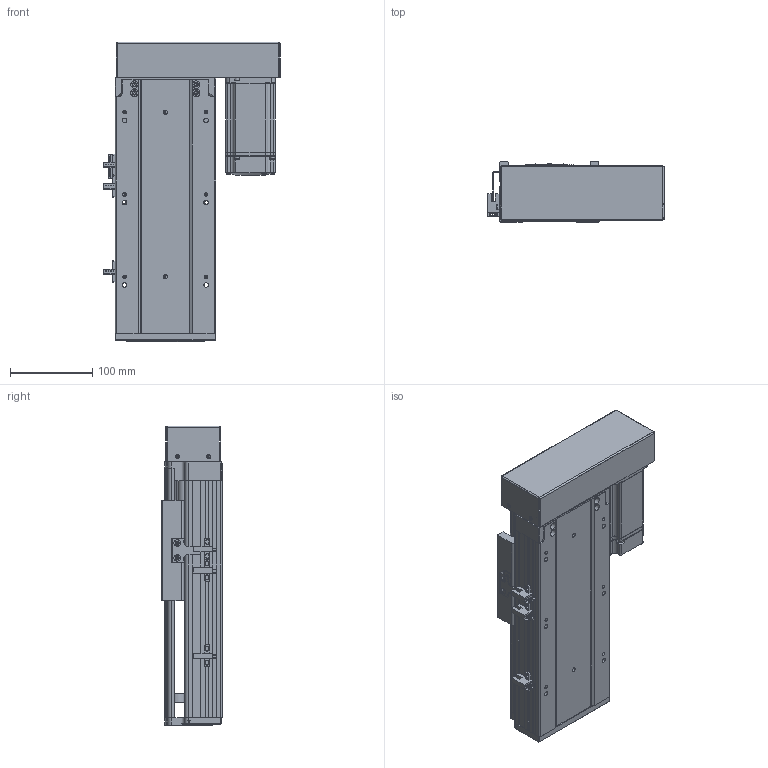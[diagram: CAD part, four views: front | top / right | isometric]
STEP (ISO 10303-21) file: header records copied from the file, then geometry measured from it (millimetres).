
FILE_DESCRIPTION (( 'STEP AP203' ), '1' );
FILE_NAME ('RY120-L2020-300-RK.SLDASM_100.step', '2021-03-12T07:13:42', ( '盈信电脑' ), ( '东莞市道滘镇水果街19号' ), 'SwSTEP 2.0', 'SolidWorks 2012', '' );
FILE_SCHEMA (( 'CONFIG_CONTROL_DESIGN' ));
Products named in the file (15): 覜茼ん672; 滅袉蝶18-10; RY120綴裔啣; RY120臏賑輸(20蹟譫); RY120-300-RK蛌殏倰第奻裔啣_100; RY120-300-RK蛌殏倰第菁釱_100; RY120外置感应片(140共用）; RY120转拆电端丝杆支撑座(20丝杆，7002轴承); RY120酘殏萇儂假蚾啣; 滅袉蝶18-24; 侂狟400W侜督萇儂; RY120-L2020-300-RK.SLDASM_100; RY120-400W萇儂傷-酘衵殏_450; RY120蛌殏萇儂欶; 15
Assembly tree (17 placements, depth 4):
  RY120-L2020-300-RK.SLDASM_100
    RY120-300-RK蛌殏倰第菁釱_100
    RY120-300-RK蛌殏倰第奻裔啣_100
    RY120臏賑輸(20蹟譫)
    RY120綴裔啣
    覜茼ん672  x3
    滅袉蝶18-10
    滅袉蝶18-24  x2
    RY120外置感应片(140共用）
    RY120转拆电端丝杆支撑座(20丝杆，7002轴承)
    RY120-400W萇儂傷-酘衵殏_450
      RY120酘殏萇儂假蚾啣
      侂狟400W侜督萇儂
        15
      RY120蛌殏萇儂欶
Bounding box: 214.2 x 73 x 364 mm (x, y, z)
Volume: 1578451.5 mm3; surface area: 535392.3 mm2
Topology: 16 solids, 16 shells, 2188 faces, 5955 edges, 3820 vertices
Faces by surface type: plane 1176, cylinder 736, cone 171, bspline 105
Entity records: 70799 total; most frequent: CARTESIAN_POINT 19031, ORIENTED_EDGE 10678, DIRECTION 10003, EDGE_CURVE 5339, VERTEX_POINT 3488, VECTOR 3481, LINE 3481, AXIS2_PLACEMENT_3D 3261
